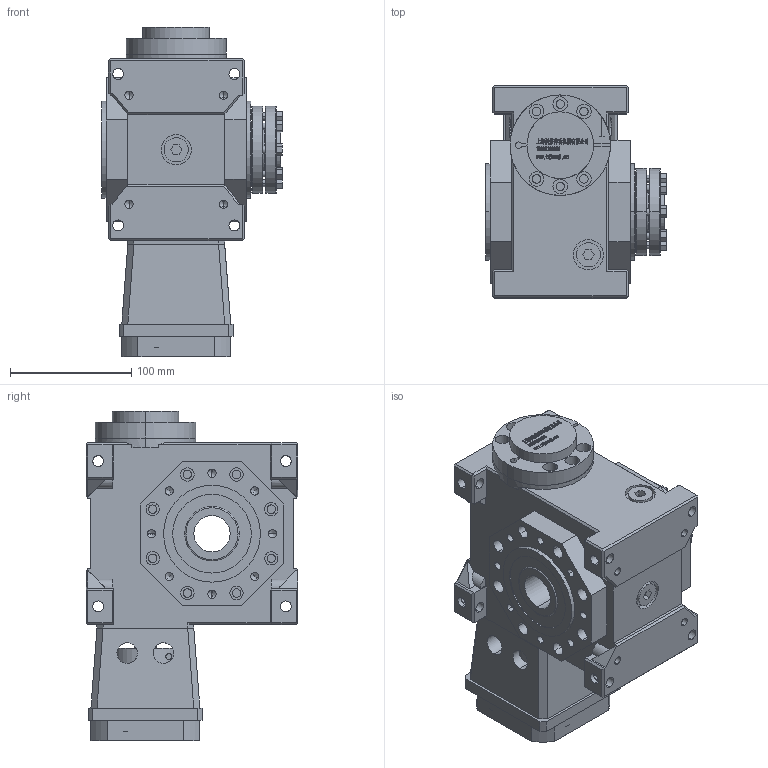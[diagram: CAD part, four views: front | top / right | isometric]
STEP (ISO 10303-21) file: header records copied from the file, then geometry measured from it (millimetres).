
FILE_DESCRIPTION (( 'STEP AP203' ), '1' );
FILE_NAME ('FXLB055-(5~90)-C1-19-70-90-M6.step', '2022-11-06T02:06:31', ( '' ), ( '' ), 'SwSTEP 2.0', 'SolidWorks 2020', '' );
FILE_SCHEMA (( 'CONFIG_CONTROL_DESIGN' ));
Length unit declared in the file: millimetre
Products named in the file (9): ______BD56-60-19-18____.step; JDLB055-CR____.step; JDLB055-ST94________.step; JDLB055-C1______-36-72-20.step; JDLB055-C1________30.step; FXLB055-(5~90)-C1-19-70-90-M6; 錨璃48^FXLB055-(5~90)-C1-19-70-90-M6; FXLB055-(5~90)-C1-19-70-90-M6.step; ST90-70-90-M6____________.step
Assembly tree (8 placements, depth 3):
  FXLB055-(5~90)-C1-19-70-90-M6
    FXLB055-(5~90)-C1-19-70-90-M6.step
      JDLB055-CR____.step
      JDLB055-C1________30.step
      JDLB055-ST94________.step
      ST90-70-90-M6____________.step
      ______BD56-60-19-18____.step
      JDLB055-C1______-36-72-20.step
    錨璃48^FXLB055-(5~90)-C1-19-70-90-M6
Bounding box: 149 x 175 x 272.2 mm (x, y, z)
Volume: 3103469 mm3; surface area: 392715.1 mm2
Topology: 83 solids, 83 shells, 2804 faces, 7339 edges, 4794 vertices
Faces by surface type: plane 1627, bspline 572, cylinder 483, cone 84, torus 38
Entity records: 114283 total; most frequent: CARTESIAN_POINT 47557, ORIENTED_EDGE 14558, DIRECTION 11622, EDGE_CURVE 7279, LINE 4958, VECTOR 4958, VERTEX_POINT 4794, AXIS2_PLACEMENT_3D 3332
